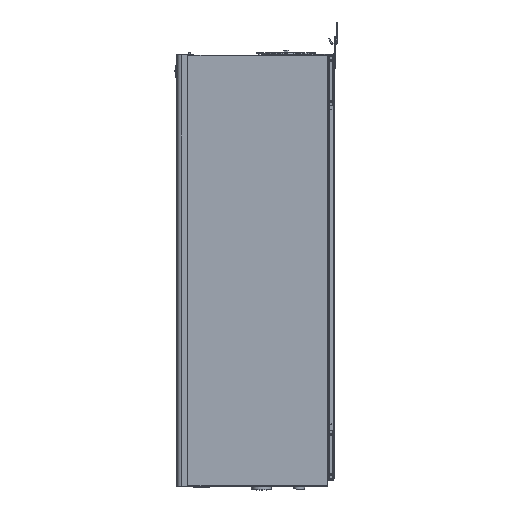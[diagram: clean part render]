
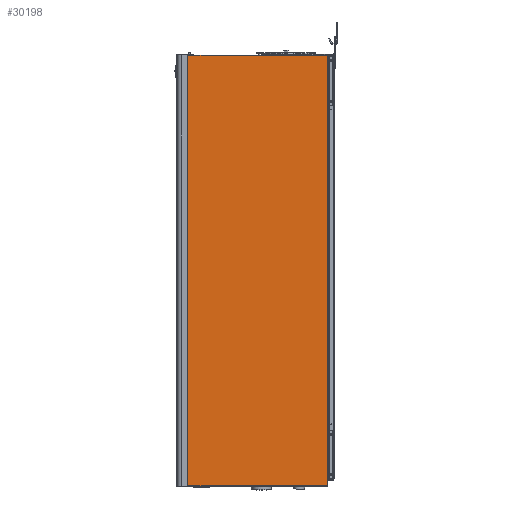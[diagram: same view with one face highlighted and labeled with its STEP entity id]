
A CAD part, left-side view. The second image highlights one B-rep face of the part: STEP entity #30198.
In plain terms, the highlighted planar face has unit normal (-1, 0, 0).
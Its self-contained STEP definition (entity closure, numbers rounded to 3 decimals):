
#2726=ORIENTED_EDGE('',*,*,#10907,.F.);
#2727=ORIENTED_EDGE('',*,*,#10908,.F.);
#2728=ORIENTED_EDGE('',*,*,#10909,.F.);
#2729=ORIENTED_EDGE('',*,*,#10910,.F.);
#10907=EDGE_CURVE('',#15015,#15008,#17936,.T.);
#10908=EDGE_CURVE('',#15016,#15015,#17937,.T.);
#10909=EDGE_CURVE('',#15012,#15016,#17938,.T.);
#10910=EDGE_CURVE('',#15008,#15012,#17939,.T.);
#15008=VERTEX_POINT('',#45826);
#15012=VERTEX_POINT('',#45835);
#15015=VERTEX_POINT('',#45843);
#15016=VERTEX_POINT('',#45845);
#17936=LINE('',#45842,#20848);
#17937=LINE('',#45844,#20849);
#17938=LINE('',#45846,#20850);
#17939=LINE('',#45847,#20851);
#20848=VECTOR('',#36865,1000.);
#20849=VECTOR('',#36866,1000.);
#20850=VECTOR('',#36867,1000.);
#20851=VECTOR('',#36868,1000.);
#23721=EDGE_LOOP('',(#2726,#2727,#2728,#2729));
#26385=FACE_BOUND('',#23721,.T.);
#29028=PLANE('',#33616);
#30198=ADVANCED_FACE('',(#26385),#29028,.T.);
#33616=AXIS2_PLACEMENT_3D('',#45841,#36863,#36864);
#36863=DIRECTION('',(-1.,0.,0.));
#36864=DIRECTION('',(0.,1.,0.));
#36865=DIRECTION('',(0.,0.,-1.));
#36866=DIRECTION('',(0.,-1.,0.));
#36867=DIRECTION('',(0.,0.,1.));
#36868=DIRECTION('',(0.,1.,0.));
#45826=CARTESIAN_POINT('',(0.,-207.998,-641.998));
#45835=CARTESIAN_POINT('',(0.,207.998,-641.998));
#45841=CARTESIAN_POINT('',(0.,0.,0.));
#45842=CARTESIAN_POINT('',(0.,-207.998,641.998));
#45843=CARTESIAN_POINT('',(0.,-207.998,641.998));
#45844=CARTESIAN_POINT('',(0.,209.,641.998));
#45845=CARTESIAN_POINT('',(0.,207.998,641.998));
#45846=CARTESIAN_POINT('',(0.,207.998,-643.));
#45847=CARTESIAN_POINT('',(0.,-207.998,-641.998));
